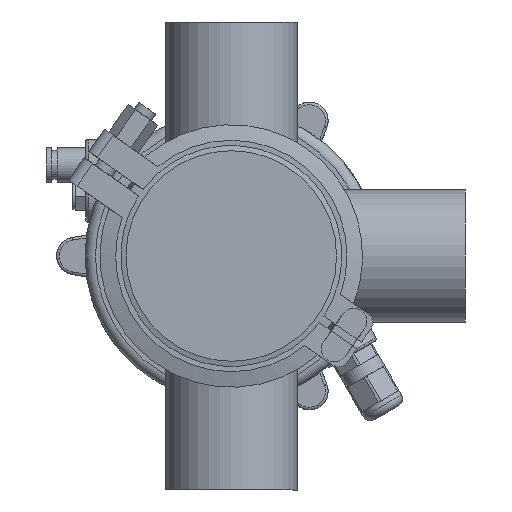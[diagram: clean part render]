
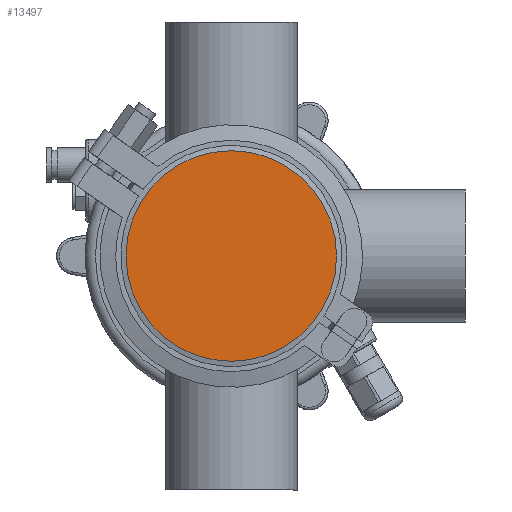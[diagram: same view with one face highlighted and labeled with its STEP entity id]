
A CAD part, front view. The second image highlights one B-rep face of the part: STEP entity #13497.
In plain terms, the highlighted planar face has unit normal (0, -1, 0).
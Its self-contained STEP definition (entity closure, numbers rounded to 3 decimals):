
#4085 = EDGE_LOOP ( 'NONE', ( #51083 ) ) ;
#11318 = CARTESIAN_POINT ( 'NONE',  ( 0., 0., 40.5 ) ) ;
#11918 = CARTESIAN_POINT ( 'NONE',  ( 0., 0., 0. ) ) ;
#13064 = DIRECTION ( 'NONE',  ( 0., -1., 0. ) ) ;
#13497 = ADVANCED_FACE ( 'NONE', ( #42258 ), #37294, .T. ) ;
#19317 = AXIS2_PLACEMENT_3D ( 'NONE', #55244, #13064, #27003 ) ;
#21062 = AXIS2_PLACEMENT_3D ( 'NONE', #11918, #27097, #22462 ) ;
#22462 = DIRECTION ( 'NONE',  ( 0., 0., 1. ) ) ;
#24002 = CIRCLE ( 'NONE', #21062, 40.5 ) ;
#27003 = DIRECTION ( 'NONE',  ( 0., 0., -1. ) ) ;
#27097 = DIRECTION ( 'NONE',  ( 0., 1., 0. ) ) ;
#37294 = PLANE ( 'NONE',  #19317 ) ;
#42258 = FACE_OUTER_BOUND ( 'NONE', #4085, .T. ) ;
#47484 = EDGE_CURVE ( 'NONE', #53837, #53837, #24002, .T. ) ;
#51083 = ORIENTED_EDGE ( 'NONE', *, *, #47484, .F. ) ;
#53837 = VERTEX_POINT ( 'NONE', #11318 ) ;
#55244 = CARTESIAN_POINT ( 'NONE',  ( -40.5, 0., 0. ) ) ;
